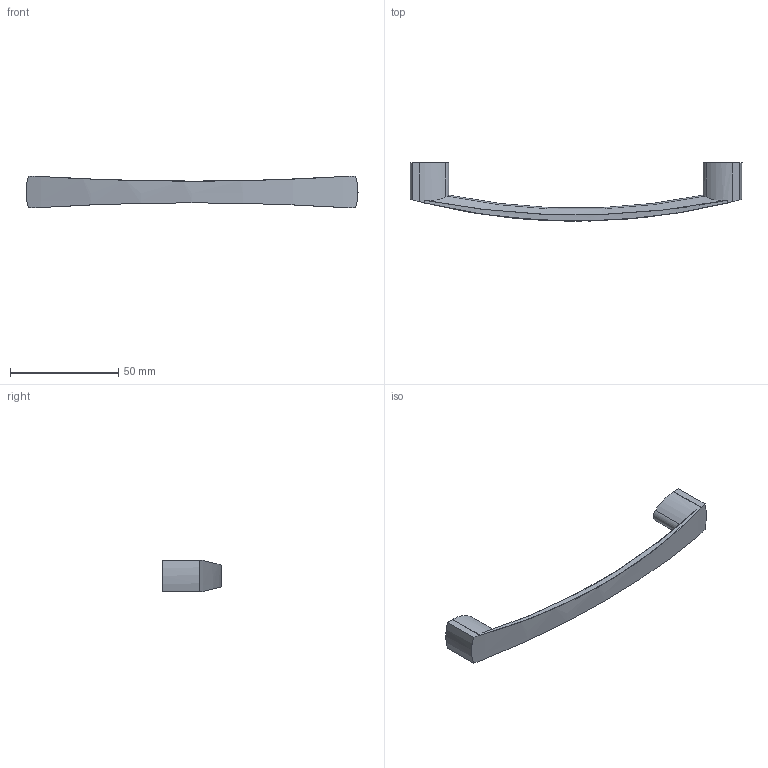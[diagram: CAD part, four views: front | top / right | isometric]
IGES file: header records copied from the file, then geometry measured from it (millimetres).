
Start section: Data from Parasolid IGES Translator 15.0.47, Copyright(c) 2006 Siemens P LM Software. All Rights Reserved.
Global section: file name: 9113430.igs; native system:  By UGS Corp.; preprocessor: XPlus GENERIC/IGES 3.0; author: Noname; organization: Noname; date: 20140122.102338; units: millimetre
Bounding box: 153.23 x 26.97 x 14.59 mm (x, y, z)
Surface area: 6598 mm2 (no closed solid volume)
Topology: 0 solids, 0 shells, 28 faces, 144 edges, 142 vertices
Faces by surface type: revolution 20, extrusion 8
